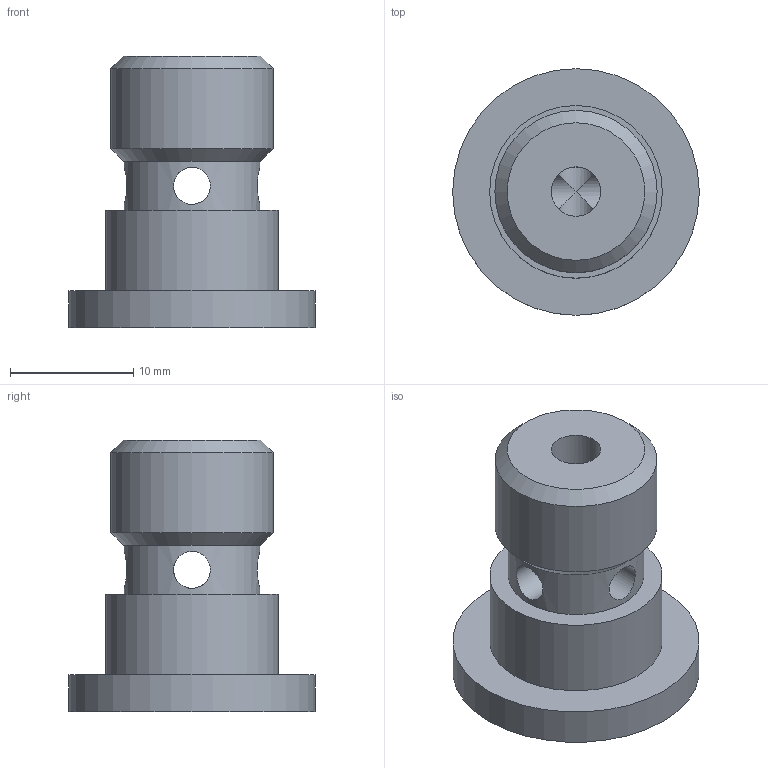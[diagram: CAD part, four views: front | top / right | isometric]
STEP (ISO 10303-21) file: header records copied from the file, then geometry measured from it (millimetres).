
FILE_DESCRIPTION(('STEP AP203'),'1');
FILE_NAME(').stp','2020-10-12T00:45:50',(' '),(' '),'Spatial InterOp 3D',' ',' ');
FILE_SCHEMA(('CONFIG_CONTROL_DESIGN'));
Length unit declared in the file: millimetre
Products named in the file (1): 1
Bounding box: 20 x 20 x 22 mm (x, y, z)
Volume: 2872.9 mm3; surface area: 1998.5 mm2
Topology: 1 solids, 1 shells, 29 faces, 73 edges, 45 vertices
Faces by surface type: plane 17, cylinder 9, cone 3
Full cylindrical faces by diameter (mm): 3 x4, 4 x1, 11 x1, 13.157 x1, 14 x1, 20 x1
Entity records: 1060 total; most frequent: CARTESIAN_POINT 402, DIRECTION 126, ORIENTED_EDGE 106, EDGE_CURVE 53, AXIS2_PLACEMENT_3D 51, EDGE_LOOP 49, VERTEX_POINT 39, FACE_OUTER_BOUND 38
